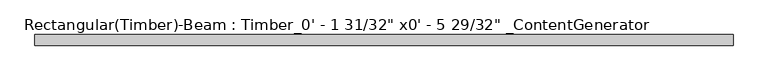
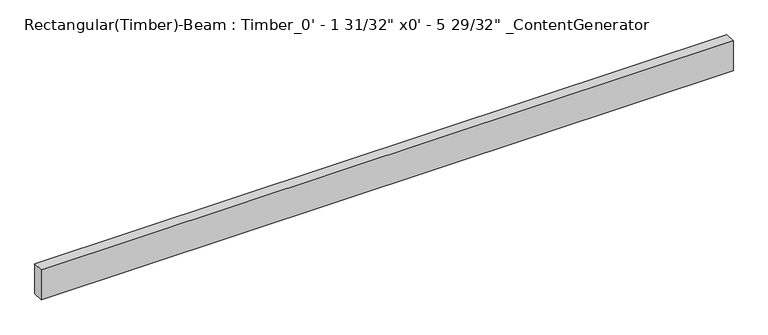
"""IFC4 building model written with IfcOpenShell, lengths in millimetres: beam geometry."""

from ifc_helpers import new_model, si_unit, frame, origin, place, context, project, spatial, polyline, outline, extrude, source, transform, mapped, element, save


def beam_b2f74068(model_context):
    return source(origin(), model_context, "Body", "SweptSolid", [
        extrude(outline(polyline([(1663.7, 25.4), (1663.7, -25.4), (-1663.7, -25.4), (-1663.7, 25.4), (1663.7, 25.4)])), frame((0.0, 0.0, -76.2), z_axis=(0.0, 0.0, 1.0), x_axis=(1.0, 0.0, 0.0)), (0.0, 0.0, 1.0), 152.4),
    ])


if __name__ == "__main__":
    model = new_model("IFC4")
    model_context = context("Model", 3, world=origin())
    ifc_project = project(units=[si_unit("LENGTHUNIT", "METRE", prefix="MILLI")], contexts=[model_context])
    site = spatial("IfcSite", under=ifc_project)
    building = spatial("IfcBuilding", under=site)
    placement = place(None, origin())
    beam_shape = beam_b2f74068(model_context)
    element("IfcBeam", 1, ObjectType="Rectangular(Timber)-Beam : Timber_0' - 1 31/32\" x0' - 5 29/32\" _ContentGenerator", at=placement, inside=building, context=model_context, shape_type="MappedRepresentation", body=[
        mapped(beam_shape, transform((0.0, 0.0, 0.0), x_axis=(1.0, 0.0, 0.0), y_axis=(0.0, 1.0, 0.0), z_axis=(0.0, 0.0, 1.0))),
    ])
    save(model, "model.ifc")
